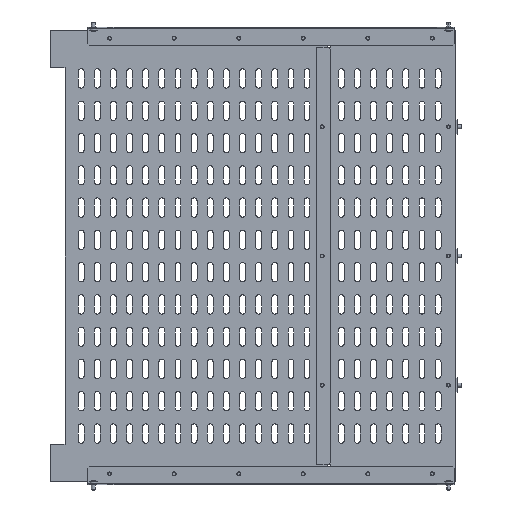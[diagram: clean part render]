
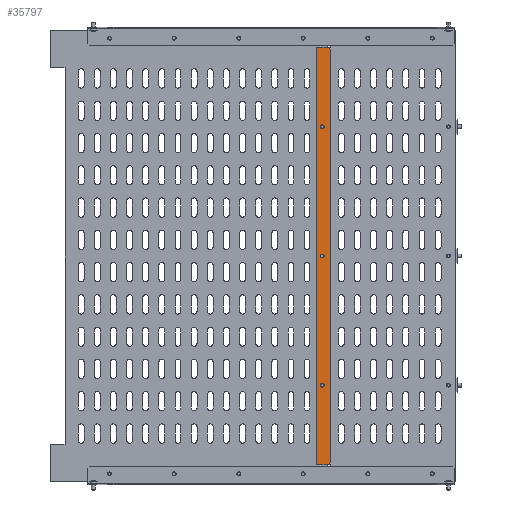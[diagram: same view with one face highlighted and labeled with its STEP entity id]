
A CAD part, front view. The second image highlights one B-rep face of the part: STEP entity #35797.
In plain terms, the highlighted planar face has unit normal (0, -1, 0).
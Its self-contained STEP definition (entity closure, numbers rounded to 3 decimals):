
#665 = EDGE_CURVE ( 'NONE', #24984, #45401, #19416, .T. ) ;
#1164 = CARTESIAN_POINT ( 'NONE',  ( -212.557, -7.1, -554. ) ) ;
#1224 = DIRECTION ( 'NONE',  ( -1., 0., 0. ) ) ;
#1952 = CARTESIAN_POINT ( 'NONE',  ( -221.557, -7.1, -677. ) ) ;
#3001 = EDGE_CURVE ( 'NONE', #32992, #5770, #36072, .T. ) ;
#4029 = DIRECTION ( 'NONE',  ( 0., -1., 0. ) ) ;
#5770 = VERTEX_POINT ( 'NONE', #10218 ) ;
#6773 = DIRECTION ( 'NONE',  ( 0.707, 0., 0.707 ) ) ;
#7755 = CARTESIAN_POINT ( 'NONE',  ( -200.007, -7.1, -674. ) ) ;
#8880 = VERTEX_POINT ( 'NONE', #66446 ) ;
#9144 = DIRECTION ( 'NONE',  ( -1., 0., 0. ) ) ;
#9853 = LINE ( 'NONE', #30594, #58680 ) ;
#10218 = CARTESIAN_POINT ( 'NONE',  ( -215.51, -7.1, -154.524 ) ) ;
#10305 = DIRECTION ( 'NONE',  ( 1., 0., 0. ) ) ;
#11410 = CARTESIAN_POINT ( 'NONE',  ( -212.557, -7.1, -354. ) ) ;
#11655 = FACE_BOUND ( 'NONE', #30084, .T. ) ;
#11946 = ORIENTED_EDGE ( 'NONE', *, *, #665, .F. ) ;
#12390 = DIRECTION ( 'NONE',  ( 0., -1., 0. ) ) ;
#14394 = CARTESIAN_POINT ( 'NONE',  ( -243.976, -7.1, -677. ) ) ;
#14659 = CARTESIAN_POINT ( 'NONE',  ( -209.565, -7.1, -353.781 ) ) ;
#15431 = DIRECTION ( 'NONE',  ( 0., -1., 0. ) ) ;
#15682 = ORIENTED_EDGE ( 'NONE', *, *, #3001, .F. ) ;
#18377 = CIRCLE ( 'NONE', #55203, 3. ) ;
#18441 = EDGE_CURVE ( 'NONE', #48860, #8880, #36023, .T. ) ;
#18446 = EDGE_CURVE ( 'NONE', #47009, #48860, #9853, .T. ) ;
#19416 = CIRCLE ( 'NONE', #40084, 3. ) ;
#19434 = CARTESIAN_POINT ( 'NONE',  ( -209.603, -7.1, -153.476 ) ) ;
#19626 = ORIENTED_EDGE ( 'NONE', *, *, #37794, .T. ) ;
#19643 = VERTEX_POINT ( 'NONE', #56042 ) ;
#19844 = LINE ( 'NONE', #14394, #49270 ) ;
#20772 = VECTOR ( 'NONE', #66561, 1000. ) ;
#21993 = EDGE_LOOP ( 'NONE', ( #24384, #44158, #34689, #32188, #19626, #52625 ) ) ;
#23189 = VERTEX_POINT ( 'NONE', #14659 ) ;
#24084 = LINE ( 'NONE', #60705, #29152 ) ;
#24384 = ORIENTED_EDGE ( 'NONE', *, *, #18446, .T. ) ;
#24420 = DIRECTION ( 'NONE',  ( 0., -1., 0. ) ) ;
#24984 = VERTEX_POINT ( 'NONE', #35668 ) ;
#27041 = CARTESIAN_POINT ( 'NONE',  ( -212.557, -7.1, -354. ) ) ;
#27112 = CARTESIAN_POINT ( 'NONE',  ( -203.007, -7.1, -677. ) ) ;
#27197 = ORIENTED_EDGE ( 'NONE', *, *, #41715, .F. ) ;
#28091 = AXIS2_PLACEMENT_3D ( 'NONE', #65477, #24420, #9144 ) ;
#29152 = VECTOR ( 'NONE', #44822, 1000. ) ;
#30084 = EDGE_LOOP ( 'NONE', ( #15682, #61169 ) ) ;
#30100 = EDGE_CURVE ( 'NONE', #32303, #51345, #19844, .T. ) ;
#30594 = CARTESIAN_POINT ( 'NONE',  ( -200.007, -7.1, -34. ) ) ;
#31047 = EDGE_CURVE ( 'NONE', #19643, #23189, #53827, .T. ) ;
#32161 = DIRECTION ( 'NONE',  ( -1., 0., 0. ) ) ;
#32188 = ORIENTED_EDGE ( 'NONE', *, *, #30100, .T. ) ;
#32303 = VERTEX_POINT ( 'NONE', #51579 ) ;
#32587 = CARTESIAN_POINT ( 'NONE',  ( -203.007, -7.1, -677. ) ) ;
#32992 = VERTEX_POINT ( 'NONE', #19434 ) ;
#33406 = DIRECTION ( 'NONE',  ( 0., -1., 0. ) ) ;
#33951 = CARTESIAN_POINT ( 'NONE',  ( -212.557, -7.1, -154. ) ) ;
#34689 = ORIENTED_EDGE ( 'NONE', *, *, #43159, .T. ) ;
#35668 = CARTESIAN_POINT ( 'NONE',  ( -213.658, -7.1, -556.79 ) ) ;
#35797 = ADVANCED_FACE ( 'NONE', ( #58170, #11655, #38157, #54399 ), #39155, .F. ) ;
#36023 = LINE ( 'NONE', #45896, #20772 ) ;
#36072 = CIRCLE ( 'NONE', #38245, 3. ) ;
#36186 = DIRECTION ( 'NONE',  ( -1., 0., 0. ) ) ;
#37794 = EDGE_CURVE ( 'NONE', #51345, #62785, #42792, .T. ) ;
#38157 = FACE_BOUND ( 'NONE', #60179, .T. ) ;
#38245 = AXIS2_PLACEMENT_3D ( 'NONE', #33951, #4029, #55968 ) ;
#39155 = PLANE ( 'NONE',  #47072 ) ;
#40084 = AXIS2_PLACEMENT_3D ( 'NONE', #1164, #33406, #42611 ) ;
#41403 = EDGE_LOOP ( 'NONE', ( #27197, #11946 ) ) ;
#41698 = EDGE_CURVE ( 'NONE', #62785, #47009, #24084, .T. ) ;
#41715 = EDGE_CURVE ( 'NONE', #45401, #24984, #56275, .T. ) ;
#42611 = DIRECTION ( 'NONE',  ( -1., 0., 0. ) ) ;
#42792 = LINE ( 'NONE', #32587, #64610 ) ;
#43159 = EDGE_CURVE ( 'NONE', #8880, #32303, #59303, .T. ) ;
#44137 = AXIS2_PLACEMENT_3D ( 'NONE', #11410, #48106, #32161 ) ;
#44158 = ORIENTED_EDGE ( 'NONE', *, *, #18441, .T. ) ;
#44261 = DIRECTION ( 'NONE',  ( 1., 0., 0. ) ) ;
#44822 = DIRECTION ( 'NONE',  ( 0., 0., 1. ) ) ;
#45401 = VERTEX_POINT ( 'NONE', #59360 ) ;
#45896 = CARTESIAN_POINT ( 'NONE',  ( -203.007, -7.1, -31. ) ) ;
#46219 = DIRECTION ( 'NONE',  ( -0.707, 0., 0.707 ) ) ;
#46360 = AXIS2_PLACEMENT_3D ( 'NONE', #27041, #12390, #1224 ) ;
#47009 = VERTEX_POINT ( 'NONE', #58386 ) ;
#47072 = AXIS2_PLACEMENT_3D ( 'NONE', #64588, #63927, #44261 ) ;
#48106 = DIRECTION ( 'NONE',  ( 0., -1., 0. ) ) ;
#48475 = CIRCLE ( 'NONE', #44137, 3. ) ;
#48860 = VERTEX_POINT ( 'NONE', #62632 ) ;
#49270 = VECTOR ( 'NONE', #10305, 1000. ) ;
#51345 = VERTEX_POINT ( 'NONE', #27112 ) ;
#51579 = CARTESIAN_POINT ( 'NONE',  ( -221.557, -7.1, -677. ) ) ;
#52625 = ORIENTED_EDGE ( 'NONE', *, *, #41698, .T. ) ;
#53675 = ORIENTED_EDGE ( 'NONE', *, *, #31047, .F. ) ;
#53827 = CIRCLE ( 'NONE', #46360, 3. ) ;
#54399 = FACE_BOUND ( 'NONE', #41403, .T. ) ;
#55203 = AXIS2_PLACEMENT_3D ( 'NONE', #67032, #15431, #36186 ) ;
#55968 = DIRECTION ( 'NONE',  ( -1., 0., 0. ) ) ;
#56042 = CARTESIAN_POINT ( 'NONE',  ( -215.549, -7.1, -354.219 ) ) ;
#56275 = CIRCLE ( 'NONE', #28091, 3. ) ;
#58170 = FACE_OUTER_BOUND ( 'NONE', #21993, .T. ) ;
#58313 = DIRECTION ( 'NONE',  ( 0., 0., -1. ) ) ;
#58386 = CARTESIAN_POINT ( 'NONE',  ( -200.007, -7.1, -34. ) ) ;
#58680 = VECTOR ( 'NONE', #46219, 1000. ) ;
#59303 = LINE ( 'NONE', #1952, #66193 ) ;
#59360 = CARTESIAN_POINT ( 'NONE',  ( -211.455, -7.1, -551.21 ) ) ;
#60179 = EDGE_LOOP ( 'NONE', ( #60749, #53675 ) ) ;
#60705 = CARTESIAN_POINT ( 'NONE',  ( -200.007, -7.1, -674. ) ) ;
#60749 = ORIENTED_EDGE ( 'NONE', *, *, #66359, .F. ) ;
#61169 = ORIENTED_EDGE ( 'NONE', *, *, #63530, .F. ) ;
#62632 = CARTESIAN_POINT ( 'NONE',  ( -203.007, -7.1, -31. ) ) ;
#62785 = VERTEX_POINT ( 'NONE', #7755 ) ;
#63530 = EDGE_CURVE ( 'NONE', #5770, #32992, #18377, .T. ) ;
#63927 = DIRECTION ( 'NONE',  ( 0., 1., 0. ) ) ;
#64588 = CARTESIAN_POINT ( 'NONE',  ( -204.057, -7.1, -254. ) ) ;
#64610 = VECTOR ( 'NONE', #6773, 1000. ) ;
#65477 = CARTESIAN_POINT ( 'NONE',  ( -212.557, -7.1, -554. ) ) ;
#66193 = VECTOR ( 'NONE', #58313, 1000. ) ;
#66359 = EDGE_CURVE ( 'NONE', #23189, #19643, #48475, .T. ) ;
#66446 = CARTESIAN_POINT ( 'NONE',  ( -221.557, -7.1, -31. ) ) ;
#66561 = DIRECTION ( 'NONE',  ( -1., 0., 0. ) ) ;
#67032 = CARTESIAN_POINT ( 'NONE',  ( -212.557, -7.1, -154. ) ) ;
